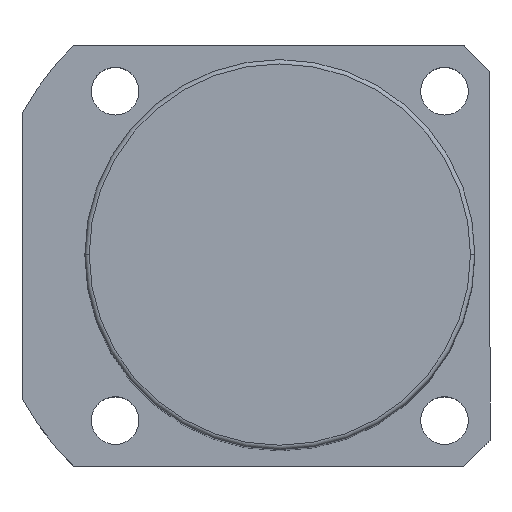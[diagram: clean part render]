
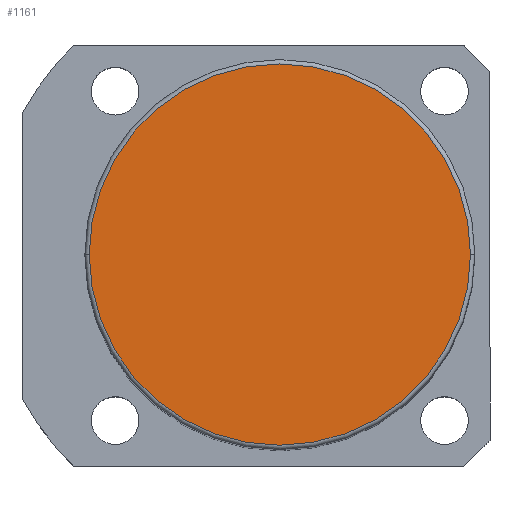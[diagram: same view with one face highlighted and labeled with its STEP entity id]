
A CAD part, top view. The second image highlights one B-rep face of the part: STEP entity #1161.
In plain terms, the highlighted planar face has unit normal (0, 0, 1).
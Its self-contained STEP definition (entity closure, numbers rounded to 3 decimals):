
#190 = AXIS2_PLACEMENT_3D ( 'NONE', #2053, #1044, #1186 ) ;
#432 = CARTESIAN_POINT ( 'NONE',  ( 0., 0., 186.5 ) ) ;
#450 = DIRECTION ( 'NONE',  ( 0., 0., 1. ) ) ;
#549 = CIRCLE ( 'NONE', #190, 44. ) ;
#586 = EDGE_LOOP ( 'NONE', ( #735, #886 ) ) ;
#735 = ORIENTED_EDGE ( 'NONE', *, *, #1328, .T. ) ;
#739 = CARTESIAN_POINT ( 'NONE',  ( 44., 0., 186.5 ) ) ;
#835 = PLANE ( 'NONE',  #2150 ) ;
#886 = ORIENTED_EDGE ( 'NONE', *, *, #1092, .T. ) ;
#1044 = DIRECTION ( 'NONE',  ( 0., 0., 1. ) ) ;
#1092 = EDGE_CURVE ( 'NONE', #2041, #1487, #1706, .T. ) ;
#1161 = ADVANCED_FACE ( 'NONE', ( #1974 ), #835, .T. ) ;
#1186 = DIRECTION ( 'NONE',  ( 1., 0., 0. ) ) ;
#1328 = EDGE_CURVE ( 'NONE', #1487, #2041, #549, .T. ) ;
#1487 = VERTEX_POINT ( 'NONE', #739 ) ;
#1497 = DIRECTION ( 'NONE',  ( 0., 0., 1. ) ) ;
#1682 = AXIS2_PLACEMENT_3D ( 'NONE', #432, #450, #2147 ) ;
#1706 = CIRCLE ( 'NONE', #1682, 44. ) ;
#1974 = FACE_OUTER_BOUND ( 'NONE', #586, .T. ) ;
#2041 = VERTEX_POINT ( 'NONE', #2168 ) ;
#2053 = CARTESIAN_POINT ( 'NONE',  ( 0., 0., 186.5 ) ) ;
#2147 = DIRECTION ( 'NONE',  ( 1., 0., 0. ) ) ;
#2150 = AXIS2_PLACEMENT_3D ( 'NONE', #2173, #1497, #2200 ) ;
#2168 = CARTESIAN_POINT ( 'NONE',  ( -44., 0., 186.5 ) ) ;
#2173 = CARTESIAN_POINT ( 'NONE',  ( 0., 0., 186.5 ) ) ;
#2200 = DIRECTION ( 'NONE',  ( 1., 0., 0. ) ) ;
